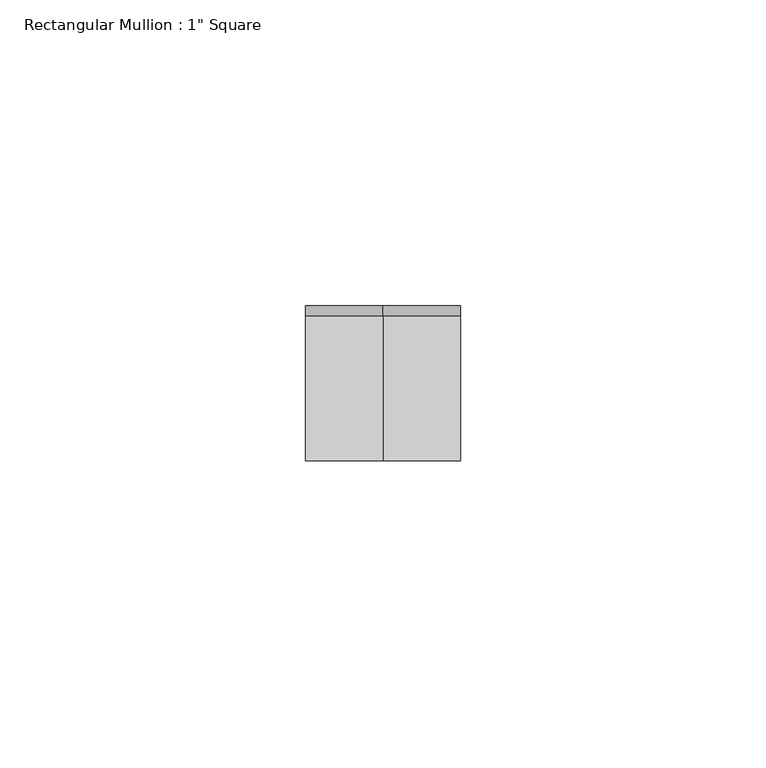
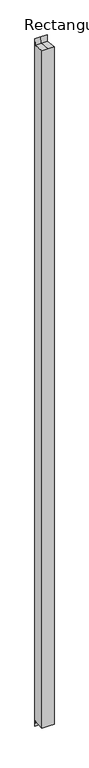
"""IFC4 building model written with IfcOpenShell, lengths in millimetres: member geometry."""

import ifcopenshell
import ifcopenshell.guid

model = None  # the IFC model being written
_history = None  # IfcOwnerHistory: only IFC2X3 demands one
_inside = {}  # id of a spatial element -> (the spatial element, [elements in it])
_under = {}  # id of a project, library or spatial element -> (it, [spatial elements below it])
_declared = {}  # id of a project -> (the project, [libraries it declares])
_typed = {}  # id of a type object -> (the type object, [elements of that type])
_made_of = {}  # id of a material, layer set ... -> (it, [elements and type objects made of it])


def new_model(schema):
    """Start an empty IFC model of exactly this schema.

    Asked for "IFC4X3", IfcOpenShell would pick the latest addendum, in which some entities
    have other attributes; the version numbers below select the first issue.
    IFC2X3 requires an IfcOwnerHistory on every rooted entity: one is made here for all.
    """
    global model, _history
    if schema == "IFC4X3":
        model = ifcopenshell.file(schema_version=(4, 3, 0, 0))
    else:
        model = ifcopenshell.file(schema=schema)
    _inside.clear()
    _under.clear()
    _declared.clear()
    _typed.clear()
    _made_of.clear()
    _history = None
    if model.schema == "IFC2X3":
        org = make("IfcOrganization", Name="unknown")
        user = make(
            "IfcPersonAndOrganization",
            ThePerson=make("IfcPerson", FamilyName="unknown"),
            TheOrganization=org,
        )
        app = make(
            "IfcApplication",
            ApplicationDeveloper=org,
            Version="unknown",
            ApplicationFullName="unknown",
            ApplicationIdentifier="unknown",
        )
        _history = make(
            "IfcOwnerHistory",
            OwningUser=user,
            OwningApplication=app,
            ChangeAction="ADDED",
            CreationDate=0,
        )
    return model


def make(cls, **values):
    """One entity of the class cls with the attributes given. An attribute that is None is left unset."""
    return model.create_entity(
        cls, **{name: value for name, value in values.items() if value is not None}
    )


def rooted(cls, **values):
    """An entity with a GlobalId (a new one), such as an element, a storey or a relation."""
    return make(cls, GlobalId=ifcopenshell.guid.new(), OwnerHistory=_history, **values)


def si_unit(unit_type, name, prefix=None):
    """IfcSIUnit, for example si_unit("LENGTHUNIT", "METRE", prefix="MILLI")."""
    return make("IfcSIUnit", UnitType=unit_type, Prefix=prefix, Name=name)


def assignment(units):
    """IfcUnitAssignment: the units of a project."""
    return None if units is None else make("IfcUnitAssignment", Units=units)


def point(xyz):
    """IfcCartesianPoint."""
    return None if xyz is None else make("IfcCartesianPoint", Coordinates=xyz)


def direction(xyz):
    """IfcDirection."""
    return None if xyz is None else make("IfcDirection", DirectionRatios=xyz)


def frame(location, z_axis=None, x_axis=None):
    """IfcAxis2Placement3D, a coordinate frame: its origin and axes. An axis left out is left unset."""
    return make(
        "IfcAxis2Placement3D",
        Location=point(location),
        Axis=direction(z_axis),
        RefDirection=direction(x_axis),
    )


def origin():
    """The frame at (0, 0, 0) with its axes left unset."""
    return frame((0.0, 0.0, 0.0))


def place(relative_to, where):
    """IfcLocalPlacement: puts the frame where relative to a parent placement (None: the world)."""
    return make(
        "IfcLocalPlacement", PlacementRelTo=relative_to, RelativePlacement=where
    )


def context(
    kind, dimensions, precision=None, world=None, true_north=None, identifier=None
):
    """IfcGeometricRepresentationContext, for example the 3D "Model" context."""
    return make(
        "IfcGeometricRepresentationContext",
        ContextIdentifier=identifier,
        ContextType=kind,
        CoordinateSpaceDimension=dimensions,
        Precision=precision,
        WorldCoordinateSystem=world,
        TrueNorth=true_north,
    )


def project(units=None, contexts=None):
    """IfcProject with its units and contexts."""
    return rooted(
        "IfcProject",
        Name="project",
        RepresentationContexts=contexts,
        UnitsInContext=assignment(units),
    )


def spatial(cls, under=None, at=None, **own):
    """A site, building, storey or space (cls), placed at a placement, below another one or the project."""
    s = rooted(cls, ObjectPlacement=at, **own)
    if under is not None:
        _under.setdefault(under.id(), (under, []))[1].append(s)
    return s


def faces_of(points, faces, orient=None, outer=None):
    """IfcFace entities. A face is a list of loops; a loop is a list of indices into points, from 0.

    orient and outer hold one flag for each loop. By default every Orientation is true, the
    first loop of a face is its IfcFaceOuterBound and the others are IfcFaceBound.
    """
    made = []
    for i, loops in enumerate(faces):
        bounds = []
        for j, loop in enumerate(loops):
            is_outer = j == 0 if outer is None else outer[i][j]
            bounds.append(
                make(
                    "IfcFaceOuterBound" if is_outer else "IfcFaceBound",
                    Bound=make("IfcPolyLoop", Polygon=[points[k] for k in loop]),
                    Orientation=True if orient is None else orient[i][j],
                )
            )
        made.append(make("IfcFace", Bounds=bounds))
    return made


def faceted_brep(points, faces, orient=None, outer=None, voids=None):
    """IfcFacetedBrep: a solid bounded by flat faces; with voids (closed shells), ...WithVoids."""
    shared = [point(p) for p in points]
    hull = make("IfcClosedShell", CfsFaces=faces_of(shared, faces, orient, outer))
    if voids is None:
        return make("IfcFacetedBrep", Outer=hull)
    return make(
        "IfcFacetedBrepWithVoids",
        Outer=hull,
        Voids=[
            make(cls, CfsFaces=faces_of(shared, fs, o, b)) for cls, fs, o, b in voids
        ],
    )


def shape(context_of_items, identifier, shape_type, items):
    """IfcShapeRepresentation: the items that make up one representation, for example the "Body"."""
    return make(
        "IfcShapeRepresentation",
        ContextOfItems=context_of_items,
        RepresentationIdentifier=identifier,
        RepresentationType=shape_type,
        Items=items,
    )


def source(mapping_origin, context_of_items, identifier, shape_type, items):
    """IfcRepresentationMap: a shape defined once, which mapped items show again and again."""
    return make(
        "IfcRepresentationMap",
        MappingOrigin=mapping_origin,
        MappedRepresentation=shape(context_of_items, identifier, shape_type, items),
    )


def transform(
    local_origin,
    x_axis=None,
    y_axis=None,
    z_axis=None,
    scale=None,
    scale2=None,
    scale3=None,
    uniform=True,
):
    """IfcCartesianTransformationOperator3D, or its non-uniform kind. x_axis, y_axis, z_axis: its Axis1, 2, 3."""
    if uniform:
        return make(
            "IfcCartesianTransformationOperator3D",
            Axis1=direction(x_axis),
            Axis2=direction(y_axis),
            LocalOrigin=point(local_origin),
            Scale=scale,
            Axis3=direction(z_axis),
        )
    return make(
        "IfcCartesianTransformationOperator3DnonUniform",
        Axis1=direction(x_axis),
        Axis2=direction(y_axis),
        LocalOrigin=point(local_origin),
        Scale=scale,
        Axis3=direction(z_axis),
        Scale2=scale2,
        Scale3=scale3,
    )


def mapped(mapping_source, mapping_target):
    """IfcMappedItem: shows the shape of a source again, moved by a transform."""
    return make(
        "IfcMappedItem", MappingSource=mapping_source, MappingTarget=mapping_target
    )


def made_of(thing, what):
    """Note that an element or type object is made of a material, layer set ...; save() writes the relation."""
    if what is not None:
        _made_of.setdefault(what.id(), (what, []))[1].append(thing)
    return thing


def element(
    cls,
    number,
    at=None,
    inside=None,
    cuts=None,
    type_object=None,
    material=None,
    context=None,
    identifier="Body",
    shape_type=None,
    held_by="IfcProductDefinitionShape",
    body=None,
    shapes=None,
    **own,
):
    """One element of the class cls, such as IfcWall. Its Tag is "e" and its number.

    at: its placement. inside: the storey or other place that contains it. cuts: it is an
    opening in that element (IfcRelVoidsElement). A single representation is given by context,
    identifier, shape_type and body (its items); several are given by shapes. held_by: the class
    of the entity that holds the representations. save() writes the other relations.
    """
    e = rooted(cls, Tag="e%d" % number, ObjectPlacement=at, **own)
    if body is not None:
        shapes = [shape(context, identifier, shape_type, body)]
    if shapes is not None:
        e.Representation = make(held_by, Representations=shapes)
    if inside is not None:
        _inside.setdefault(inside.id(), (inside, []))[1].append(e)
    if cuts is not None:
        rooted(
            "IfcRelVoidsElement", RelatingBuildingElement=cuts, RelatedOpeningElement=e
        )
    if type_object is not None:
        _typed.setdefault(type_object.id(), (type_object, []))[1].append(e)
    return made_of(e, material)


def aggregate(whole, parts):
    """IfcRelAggregates: a whole, such as a stair, and the parts it consists of."""
    return rooted("IfcRelAggregates", RelatingObject=whole, RelatedObjects=parts)


def save(model, path):
    """Write the relations noted so far, then the file.

    IfcRelAggregates (storeys below a building ...), IfcRelContainedInSpatialStructure (elements
    in a storey), IfcRelDefinesByType, IfcRelAssociatesMaterial and IfcRelDeclares: one each for
    every whole, place, type object, material and project.
    """
    for whole, parts in _under.values():
        aggregate(whole, parts)
    for where, things in _inside.values():
        rooted(
            "IfcRelContainedInSpatialStructure",
            RelatedElements=things,
            RelatingStructure=where,
        )
    for kind, things in _typed.values():
        rooted("IfcRelDefinesByType", RelatedObjects=things, RelatingType=kind)
    for what, things in _made_of.values():
        rooted("IfcRelAssociatesMaterial", RelatedObjects=things, RelatingMaterial=what)
    for by, libraries in _declared.values():
        rooted("IfcRelDeclares", RelatingContext=by, RelatedDefinitions=libraries)
    model.write(path)


def member_b90b2622(model_context):
    return source(origin(), model_context, "Body", "Brep", [
        faceted_brep([(-12.7, 12.7, 11.903125), (0.0, 12.7, 11.903125), (12.7, 12.7, 11.903125), (12.7, 12.7, -1510.503125), (0.0, 12.7, -1510.503125), (-12.7, 12.7, -1510.503125), (-12.7, -12.7, 1.4996528), (-12.7, 11.0128906, -1.4878906), (-12.7, 11.0128906, -1497.1121094), (-12.7, -12.7, -1500.0996528), (12.7, -12.7, 1.4996528), (0.0, -12.7, 1.4996528), (0.0, -12.7, -1500.0996528), (12.7, -12.7, -1500.0996528), (12.7, 11.0128906, -1.4878906), (12.7, 11.0128906, -1497.1121094), (0.0, 11.0128906, -1.4878906), (0.0, 11.0128906, -1497.1121094)], [[[0, 1, 2, 3, 4, 5]], [[6, 7, 0, 5, 8, 9]], [[10, 11, 6, 9, 12, 13]], [[2, 14, 10, 13, 15, 3]], [[2, 1, 16, 14]], [[1, 0, 7, 16]], [[7, 6, 11, 16]], [[11, 10, 14, 16]], [[3, 15, 17, 4]], [[15, 13, 12, 17]], [[12, 9, 8, 17]], [[8, 5, 4, 17]]]),
    ])


if __name__ == "__main__":
    model = new_model("IFC4")
    model_context = context("Model", 3, world=origin())
    ifc_project = project(units=[si_unit("LENGTHUNIT", "METRE", prefix="MILLI")], contexts=[model_context])
    site = spatial("IfcSite", under=ifc_project)
    building = spatial("IfcBuilding", under=site)
    placement = place(None, origin())
    member_shape = member_b90b2622(model_context)
    element("IfcMember", 1, ObjectType="Rectangular Mullion : 1\" Square", at=placement, inside=building, context=model_context, shape_type="MappedRepresentation", body=[
        mapped(member_shape, transform((0.0, 0.0, 0.0), x_axis=(1.0, 0.0, 0.0), y_axis=(0.0, 1.0, 0.0), z_axis=(0.0, 0.0, 1.0))),
    ])
    save(model, "model.ifc")
